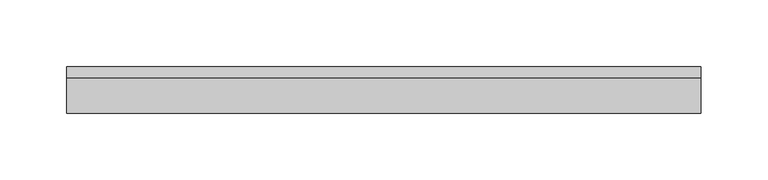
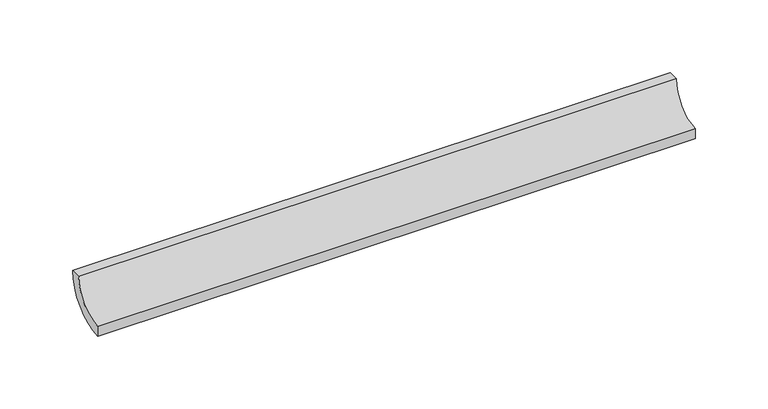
"""IFC4 building model written with IfcOpenShell, lengths in millimetres: proxy geometry, EXAGRES - Piscina Mediacaña1 : Publica_Azul_24.5x4cm."""

from ifc_helpers import new_model, si_unit, point, frame, frame_2d, origin, place, context, project, spatial, polyline, circle_curve, trimmed, segment, composite_curve, outline, extrude, source, transform, mapped, element, save


def generic_models_0a1366a3(model_context):
    return source(origin(), model_context, "Body", "SweptSolid", [
        extrude(outline(composite_curve([segment(trimmed(circle_curve(frame_2d((-26.0, 26.0)), 26.0), [point((-26.0, 0.0))], [point((0.0, 26.0))], True, "CARTESIAN"), True, "CONTINUOUS"), segment(polyline([(0.0, 26.0), (8.5, 26.0)]), True, "CONTINUOUS"), segment(trimmed(circle_curve(frame_2d((-26.0, 26.0)), 34.5), [point((8.5, 26.0))], [point((-26.0, -8.5))], False, "CARTESIAN"), True, "CONTINUOUS"), segment(polyline([(-26.0, -8.5), (-26.0, 0.0)]), True, "CONTINUOUS")], self_intersect=False)), frame((0.0, 0.0, 0.0), z_axis=(1.0, 0.0, 0.0), x_axis=(0.0, 1.0, 0.0)), (0.0, 0.0, 1.0), 474.0),
    ])


if __name__ == "__main__":
    model = new_model("IFC4")
    model_context = context("Model", 3, world=origin())
    ifc_project = project(units=[si_unit("LENGTHUNIT", "METRE", prefix="MILLI")], contexts=[model_context])
    site = spatial("IfcSite", under=ifc_project)
    building = spatial("IfcBuilding", under=site)
    placement = place(None, origin())
    generic_models_shape = generic_models_0a1366a3(model_context)
    element("IfcBuildingElementProxy", 1, Name="EXAGRES - Piscina Mediacaña1 : Publica_Azul_24.5x4cm", ObjectType="EXAGRES - Piscina Mediacaña1 : Publica_Azul_24.5x4cm", at=placement, inside=building, context=model_context, shape_type="MappedRepresentation", body=[
        mapped(generic_models_shape, transform((0.0, 0.0, 0.0), x_axis=(1.0, 0.0, 0.0), y_axis=(0.0, 1.0, 0.0), z_axis=(0.0, 0.0, 1.0))),
    ])
    save(model, "model.ifc")
